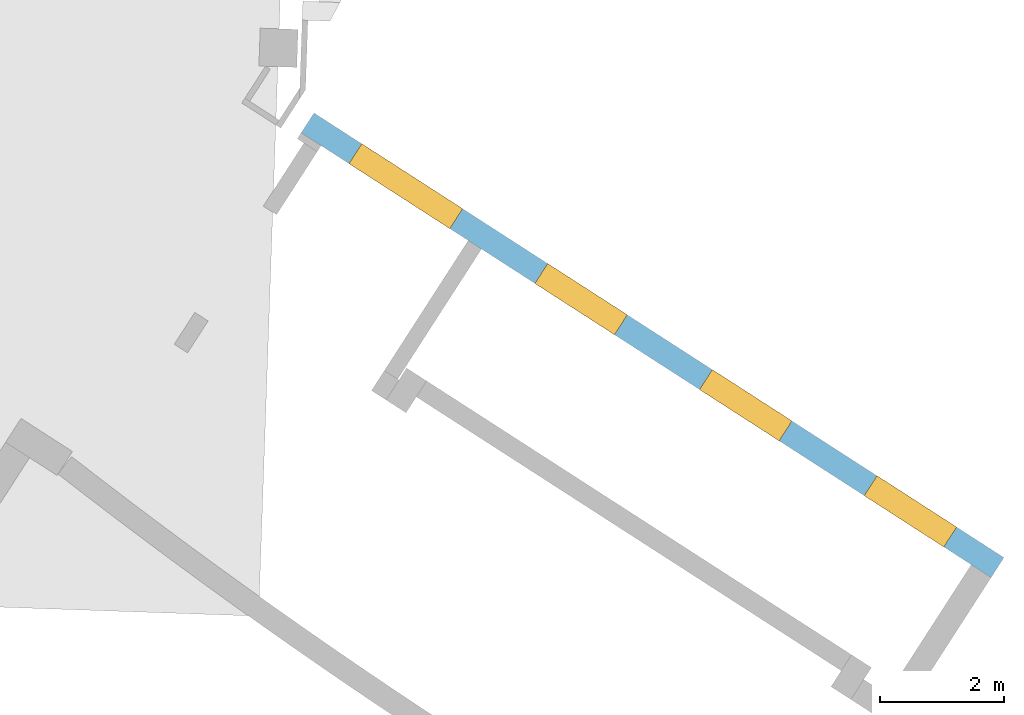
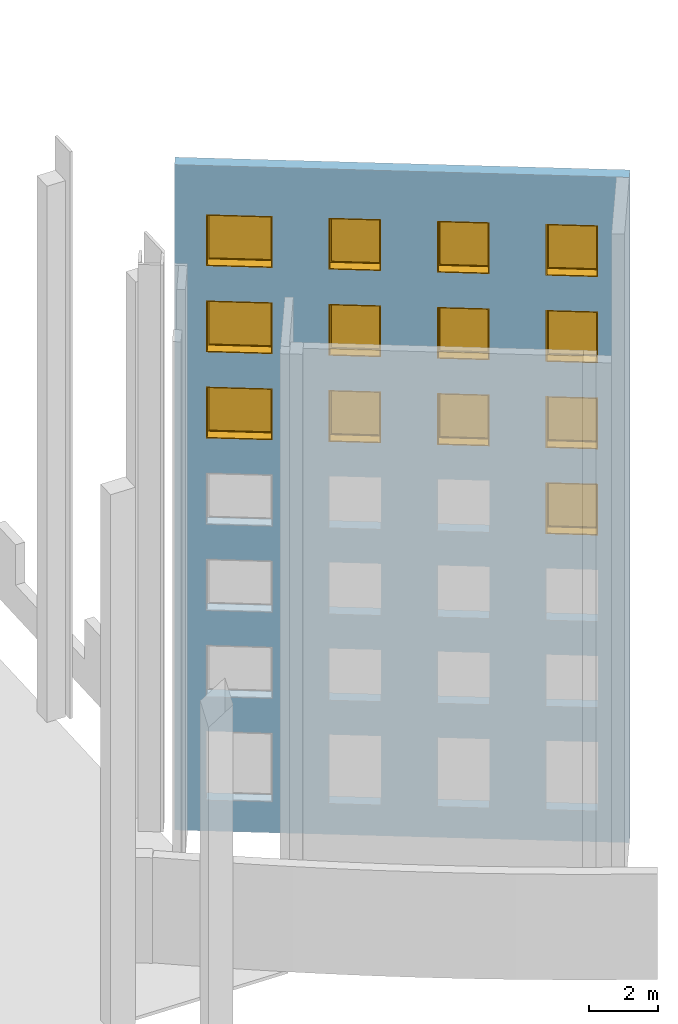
"""IFC2X3 building model written with IfcOpenShell, lengths in feet."""

from ifc_helpers import new_model, entity, si_unit, converted_unit, derived_unit, direction, frame, frame_2d, origin, place, context, subcontext, project, spatial, polyline, rectangle, outline, extrude, source, transform, mapped, material, material_list, layer, layer_set, layer_usage, type_object, type_shapes, element, fill, save


model = new_model("IFC2X3")

# Units and contexts
model_context = context("Model", 3, precision=0.0001, world=origin(), true_north=direction((0.999390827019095, 0.0348994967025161)))
body_context = subcontext(model_context, "Body", "Model", "MODEL_VIEW")
ifc_project = project(units=[converted_unit("LENGTHUNIT", "FOOT", entity("IfcRatioMeasure", 0.3048), si_unit("LENGTHUNIT", "METRE"), dimensions=[1, 0, 0, 0, 0, 0, 0]), converted_unit("AREAUNIT", "SQUARE FOOT", entity("IfcRatioMeasure", 0.09290304), si_unit("AREAUNIT", "SQUARE_METRE"), dimensions=[2, 0, 0, 0, 0, 0, 0]), converted_unit("VOLUMEUNIT", "CUBIC FOOT", entity("IfcRatioMeasure", 0.028316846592), si_unit("VOLUMEUNIT", "CUBIC_METRE"), dimensions=[3, 0, 0, 0, 0, 0, 0]), converted_unit("PLANEANGLEUNIT", "DEGREE", entity("IfcRatioMeasure", 0.0174532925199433), si_unit("PLANEANGLEUNIT", "RADIAN"), dimensions=[0, 0, 0, 0, 0, 0, 0]), si_unit("MASSUNIT", "GRAM", prefix="KILO"), si_unit("TIMEUNIT", "SECOND"), si_unit("FREQUENCYUNIT", "HERTZ"), si_unit("THERMODYNAMICTEMPERATUREUNIT", "DEGREE_CELSIUS"), derived_unit("THERMALTRANSMITTANCEUNIT", [(si_unit("MASSUNIT", "GRAM", prefix="KILO"), 1), (si_unit("THERMODYNAMICTEMPERATUREUNIT", "KELVIN"), -1), (si_unit("TIMEUNIT", "SECOND"), -3)]), derived_unit("VOLUMETRICFLOWRATEUNIT", [(si_unit("LENGTHUNIT", "METRE"), 3), (si_unit("TIMEUNIT", "SECOND"), -1)]), si_unit("ELECTRICCURRENTUNIT", "AMPERE"), si_unit("ELECTRICVOLTAGEUNIT", "VOLT"), si_unit("POWERUNIT", "WATT"), si_unit("FORCEUNIT", "NEWTON"), si_unit("ILLUMINANCEUNIT", "LUX"), si_unit("LUMINOUSFLUXUNIT", "LUMEN"), si_unit("LUMINOUSINTENSITYUNIT", "CANDELA"), derived_unit("USERDEFINED", [(si_unit("MASSUNIT", "GRAM", prefix="KILO"), -1), (si_unit("LENGTHUNIT", "METRE"), -2), (si_unit("TIMEUNIT", "SECOND"), 3), (si_unit("LUMINOUSFLUXUNIT", "LUMEN"), 1)]), derived_unit("LINEARVELOCITYUNIT", [(si_unit("LENGTHUNIT", "METRE"), 1), (si_unit("TIMEUNIT", "SECOND"), -1)]), si_unit("PRESSUREUNIT", "PASCAL"), derived_unit("USERDEFINED", [(si_unit("LENGTHUNIT", "METRE"), -2), (si_unit("MASSUNIT", "GRAM", prefix="KILO"), 1), (si_unit("TIMEUNIT", "SECOND"), -2)])], contexts=[model_context])

# Site, building, storey
site_placement = place(None, frame((892.518771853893, 322.38689265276, 0.00393700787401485), z_axis=(0.0, 0.0, 1.0), x_axis=(0.0348994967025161, 0.999390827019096, 0.0)))
site = spatial("IfcSite", under=ifc_project, at=site_placement, Name="Default", CompositionType="ELEMENT")
building_placement = place(site_placement, origin())
building = spatial("IfcBuilding", under=site, at=building_placement, CompositionType="ELEMENT")
storey_1_placement = place(building_placement, frame((0.0, 0.0, 544.75)))
storey_1 = spatial("IfcBuildingStorey", under=building, at=storey_1_placement, Name="Exist Garage - Ground Level", CompositionType="ELEMENT", Elevation=544.75)

# Wall, openings
ifc_material_1 = material(Name="Masonry - Brick")
ifc_layer_1 = layer(ifc_material_1, 0.302083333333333)
ifc_material_2 = material(Name="Misc. Air Layers - Air Space")
ifc_layer_2 = layer(ifc_material_2, 0.114583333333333)
ifc_material_3 = material(Name="Concrete - Cast-in-Place Concrete_hatch surface")
ifc_layer_3 = layer(ifc_material_3, 0.833333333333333)
ifc_layer_set = layer_set([ifc_layer_1, ifc_layer_2, ifc_layer_3], Name="Basic Wall:(existing)Exterior - Brick on Conc - 1'-3\"")
ifc_layer_usage = layer_usage(ifc_layer_set, "AXIS2", "NEGATIVE", 0.625)
wall_type = type_object("IfcWallType", Name="Basic Wall:(existing)Exterior - Brick on Conc - 1'-3\"", PredefinedType="STANDARD", material=ifc_layer_set)
wall_placement = place(storey_1_placement, frame((-143.978651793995, 235.094064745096, 0.0), z_axis=(0.0, 0.0, 1.0), x_axis=(-0.512021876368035, -0.858972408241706, 0.0)))
wall = element("IfcWallStandardCase", 1, at=wall_placement, inside=storey_1, type_object=wall_type, material=ifc_layer_usage, Name="Basic Wall:(existing)Exterior - Brick on Conc - 1'-3\"", ObjectType="Basic Wall:(existing)Exterior - Brick on Conc - 1'-3\"", context=body_context, shape_type="SweptSolid", body=[
    extrude(rectangle(XDim=43.3020833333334, YDim=1.25, at=frame_2d((21.6510416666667, -9.43689570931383e-16), x_axis=(-1.0, 0.0))), origin(), (0.0, 0.0, 1.0), 77.25),
])
opening_1_placement = place(wall_placement, frame((3.0, -0.625, 3.58333333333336)))
element("IfcOpeningElement", 2, at=opening_1_placement, cuts=wall, Name="Fixed:6'4\" x 8'0\":1", ObjectType="Opening", context=body_context, shape_type="SweptSolid", body=[
    extrude(rectangle(XDim=8.00000000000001, YDim=6.33333333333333, at=frame_2d((4.00000000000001, 3.16666666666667), x_axis=(-1.0, 0.0))), frame((0.0, 0.0, 0.0), z_axis=(0.0, 1.0, 0.0), x_axis=(0.0, 0.0, 1.0)), (0.0, 0.0, 1.0), 1.25),
])
opening_2_placement = place(wall_placement, frame((14.6666666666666, -0.625000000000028, 3.58333333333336)))
element("IfcOpeningElement", 3, at=opening_2_placement, cuts=wall, Name="Fixed:5'0\" x 8'0\":1", ObjectType="Opening", context=body_context, shape_type="SweptSolid", body=[
    extrude(rectangle(XDim=8.00000000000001, YDim=5.0, at=frame_2d((4.00000000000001, 2.5), x_axis=(-1.0, 0.0))), frame((0.0, 0.0, 0.0), z_axis=(0.0, 1.0, 0.0), x_axis=(0.0, 0.0, 1.0)), (0.0, 0.0, 1.0), 1.25),
])
opening_3_placement = place(wall_placement, frame((25.0, -0.625000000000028, 3.58333333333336)))
element("IfcOpeningElement", 4, at=opening_3_placement, cuts=wall, Name="Fixed:5'0\" x 8'0\":1", ObjectType="Opening", context=body_context, shape_type="SweptSolid", body=[
    extrude(rectangle(XDim=8.00000000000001, YDim=5.0, at=frame_2d((4.00000000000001, 2.5), x_axis=(-1.0, 0.0))), frame((0.0, 0.0, 0.0), z_axis=(0.0, 1.0, 0.0), x_axis=(0.0, 0.0, 1.0)), (0.0, 0.0, 1.0), 1.25),
])
opening_4_placement = place(wall_placement, frame((35.3333333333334, -0.625000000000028, 3.58333333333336)))
element("IfcOpeningElement", 5, at=opening_4_placement, cuts=wall, Name="Fixed:5'0\" x 8'0\":1", ObjectType="Opening", context=body_context, shape_type="SweptSolid", body=[
    extrude(rectangle(XDim=8.00000000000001, YDim=5.0, at=frame_2d((4.00000000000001, 2.5), x_axis=(-1.0, 0.0))), frame((0.0, 0.0, 0.0), z_axis=(0.0, 1.0, 0.0), x_axis=(0.0, 0.0, 1.0)), (0.0, 0.0, 1.0), 1.25),
])
opening_5_placement = place(wall_placement, frame((3.0, -0.625, 15.5833333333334)))
element("IfcOpeningElement", 6, at=opening_5_placement, cuts=wall, Name="Fixed:6'4\" x 6'0\":1", ObjectType="Opening", context=body_context, shape_type="SweptSolid", body=[
    extrude(rectangle(XDim=6.0, YDim=6.33333333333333, at=frame_2d((3.0, 3.16666666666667), x_axis=(-1.0, 0.0))), frame((0.0, 0.0, 0.0), z_axis=(0.0, 1.0, 0.0), x_axis=(0.0, 0.0, 1.0)), (0.0, 0.0, 1.0), 1.25),
])
opening_6_placement = place(wall_placement, frame((14.6666666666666, -0.625000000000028, 15.5833333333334)))
element("IfcOpeningElement", 7, at=opening_6_placement, cuts=wall, Name="Fixed:5'0\" x 6'0\":1", ObjectType="Opening", context=body_context, shape_type="SweptSolid", body=[
    extrude(rectangle(XDim=6.0, YDim=5.0, at=frame_2d((3.0, 2.5), x_axis=(-1.0, 0.0))), frame((0.0, 0.0, 0.0), z_axis=(0.0, 1.0, 0.0), x_axis=(0.0, 0.0, 1.0)), (0.0, 0.0, 1.0), 1.25),
])
opening_7_placement = place(wall_placement, frame((25.0, -0.625000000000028, 15.5833333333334)))
element("IfcOpeningElement", 8, at=opening_7_placement, cuts=wall, Name="Fixed:5'0\" x 6'0\":1", ObjectType="Opening", context=body_context, shape_type="SweptSolid", body=[
    extrude(rectangle(XDim=6.0, YDim=5.0, at=frame_2d((3.0, 2.5), x_axis=(-1.0, 0.0))), frame((0.0, 0.0, 0.0), z_axis=(0.0, 1.0, 0.0), x_axis=(0.0, 0.0, 1.0)), (0.0, 0.0, 1.0), 1.25),
])
opening_8_placement = place(wall_placement, frame((35.3333333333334, -0.625000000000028, 15.5833333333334)))
element("IfcOpeningElement", 9, at=opening_8_placement, cuts=wall, Name="Fixed:5'0\" x 6'0\":1", ObjectType="Opening", context=body_context, shape_type="SweptSolid", body=[
    extrude(rectangle(XDim=6.0, YDim=5.0, at=frame_2d((3.0, 2.5), x_axis=(-1.0, 0.0))), frame((0.0, 0.0, 0.0), z_axis=(0.0, 1.0, 0.0), x_axis=(0.0, 0.0, 1.0)), (0.0, 0.0, 1.0), 1.25),
])
opening_9_placement = place(wall_placement, frame((3.0, -0.625, 25.5833333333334)))
element("IfcOpeningElement", 10, at=opening_9_placement, cuts=wall, Name="Fixed:6'4\" x 6'0\":1", ObjectType="Opening", context=body_context, shape_type="SweptSolid", body=[
    extrude(rectangle(XDim=6.0, YDim=6.33333333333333, at=frame_2d((3.0, 3.16666666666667), x_axis=(-1.0, 0.0))), frame((0.0, 0.0, 0.0), z_axis=(0.0, 1.0, 0.0), x_axis=(0.0, 0.0, 1.0)), (0.0, 0.0, 1.0), 1.25),
])
opening_10_placement = place(wall_placement, frame((14.6666666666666, -0.625000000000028, 25.5833333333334)))
element("IfcOpeningElement", 11, at=opening_10_placement, cuts=wall, Name="Fixed:5'0\" x 6'0\":1", ObjectType="Opening", context=body_context, shape_type="SweptSolid", body=[
    extrude(rectangle(XDim=6.0, YDim=5.0, at=frame_2d((3.0, 2.5), x_axis=(-1.0, 0.0))), frame((0.0, 0.0, 0.0), z_axis=(0.0, 1.0, 0.0), x_axis=(0.0, 0.0, 1.0)), (0.0, 0.0, 1.0), 1.25),
])
opening_11_placement = place(wall_placement, frame((25.0, -0.625000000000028, 25.5833333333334)))
element("IfcOpeningElement", 12, at=opening_11_placement, cuts=wall, Name="Fixed:5'0\" x 6'0\":1", ObjectType="Opening", context=body_context, shape_type="SweptSolid", body=[
    extrude(rectangle(XDim=6.0, YDim=5.0, at=frame_2d((3.0, 2.5), x_axis=(-1.0, 0.0))), frame((0.0, 0.0, 0.0), z_axis=(0.0, 1.0, 0.0), x_axis=(0.0, 0.0, 1.0)), (0.0, 0.0, 1.0), 1.25),
])
opening_12_placement = place(wall_placement, frame((35.3333333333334, -0.625000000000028, 25.5833333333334)))
element("IfcOpeningElement", 13, at=opening_12_placement, cuts=wall, Name="Fixed:5'0\" x 6'0\":1", ObjectType="Opening", context=body_context, shape_type="SweptSolid", body=[
    extrude(rectangle(XDim=6.0, YDim=5.0, at=frame_2d((3.0, 2.5), x_axis=(-1.0, 0.0))), frame((0.0, 0.0, 0.0), z_axis=(0.0, 1.0, 0.0), x_axis=(0.0, 0.0, 1.0)), (0.0, 0.0, 1.0), 1.25),
])
opening_13_placement = place(wall_placement, frame((3.0, -0.625, 35.5833333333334)))
element("IfcOpeningElement", 14, at=opening_13_placement, cuts=wall, Name="Fixed:6'4\" x 6'0\":1", ObjectType="Opening", context=body_context, shape_type="SweptSolid", body=[
    extrude(rectangle(XDim=6.0, YDim=6.33333333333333, at=frame_2d((3.0, 3.16666666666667), x_axis=(-1.0, 0.0))), frame((0.0, 0.0, 0.0), z_axis=(0.0, 1.0, 0.0), x_axis=(0.0, 0.0, 1.0)), (0.0, 0.0, 1.0), 1.25),
])
opening_14_placement = place(wall_placement, frame((14.6666666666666, -0.625000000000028, 35.5833333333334)))
element("IfcOpeningElement", 15, at=opening_14_placement, cuts=wall, Name="Fixed:5'0\" x 6'0\":1", ObjectType="Opening", context=body_context, shape_type="SweptSolid", body=[
    extrude(rectangle(XDim=6.0, YDim=5.0, at=frame_2d((3.0, 2.5), x_axis=(-1.0, 0.0))), frame((0.0, 0.0, 0.0), z_axis=(0.0, 1.0, 0.0), x_axis=(0.0, 0.0, 1.0)), (0.0, 0.0, 1.0), 1.25),
])
opening_15_placement = place(wall_placement, frame((25.0, -0.625000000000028, 35.5833333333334)))
element("IfcOpeningElement", 16, at=opening_15_placement, cuts=wall, Name="Fixed:5'0\" x 6'0\":1", ObjectType="Opening", context=body_context, shape_type="SweptSolid", body=[
    extrude(rectangle(XDim=6.0, YDim=5.0, at=frame_2d((3.0, 2.5), x_axis=(-1.0, 0.0))), frame((0.0, 0.0, 0.0), z_axis=(0.0, 1.0, 0.0), x_axis=(0.0, 0.0, 1.0)), (0.0, 0.0, 1.0), 1.25),
])
opening_16_placement = place(wall_placement, frame((35.3333333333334, -0.625000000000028, 35.5833333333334)))
opening_16 = element("IfcOpeningElement", 17, at=opening_16_placement, cuts=wall, Name="Fixed:5'0\" x 6'0\":1", ObjectType="Opening", context=body_context, shape_type="SweptSolid", body=[
    extrude(rectangle(XDim=6.0, YDim=5.0, at=frame_2d((3.0, 2.5), x_axis=(-1.0, 0.0))), frame((0.0, 0.0, 0.0), z_axis=(0.0, 1.0, 0.0), x_axis=(0.0, 0.0, 1.0)), (0.0, 0.0, 1.0), 1.25),
])
opening_17_placement = place(wall_placement, frame((3.0, -0.625, 45.5833333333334)))
opening_17 = element("IfcOpeningElement", 18, at=opening_17_placement, cuts=wall, Name="Fixed:6'4\" x 6'0\":1", ObjectType="Opening", context=body_context, shape_type="SweptSolid", body=[
    extrude(rectangle(XDim=6.0, YDim=6.33333333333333, at=frame_2d((3.0, 3.16666666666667), x_axis=(-1.0, 0.0))), frame((0.0, 0.0, 0.0), z_axis=(0.0, 1.0, 0.0), x_axis=(0.0, 0.0, 1.0)), (0.0, 0.0, 1.0), 1.25),
])
opening_18_placement = place(wall_placement, frame((14.6666666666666, -0.625000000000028, 45.5833333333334)))
opening_18 = element("IfcOpeningElement", 19, at=opening_18_placement, cuts=wall, Name="Fixed:5'0\" x 6'0\":1", ObjectType="Opening", context=body_context, shape_type="SweptSolid", body=[
    extrude(rectangle(XDim=6.0, YDim=5.0, at=frame_2d((3.0, 2.5), x_axis=(-1.0, 0.0))), frame((0.0, 0.0, 0.0), z_axis=(0.0, 1.0, 0.0), x_axis=(0.0, 0.0, 1.0)), (0.0, 0.0, 1.0), 1.25),
])
opening_19_placement = place(wall_placement, frame((25.0, -0.625000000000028, 45.5833333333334)))
opening_19 = element("IfcOpeningElement", 20, at=opening_19_placement, cuts=wall, Name="Fixed:5'0\" x 6'0\":1", ObjectType="Opening", context=body_context, shape_type="SweptSolid", body=[
    extrude(rectangle(XDim=6.0, YDim=5.0, at=frame_2d((3.0, 2.5), x_axis=(-1.0, 0.0))), frame((0.0, 0.0, 0.0), z_axis=(0.0, 1.0, 0.0), x_axis=(0.0, 0.0, 1.0)), (0.0, 0.0, 1.0), 1.25),
])
opening_20_placement = place(wall_placement, frame((35.3333333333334, -0.625000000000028, 45.5833333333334)))
opening_20 = element("IfcOpeningElement", 21, at=opening_20_placement, cuts=wall, Name="Fixed:5'0\" x 6'0\":1", ObjectType="Opening", context=body_context, shape_type="SweptSolid", body=[
    extrude(rectangle(XDim=6.0, YDim=5.0, at=frame_2d((3.0, 2.5), x_axis=(-1.0, 0.0))), frame((0.0, 0.0, 0.0), z_axis=(0.0, 1.0, 0.0), x_axis=(0.0, 0.0, 1.0)), (0.0, 0.0, 1.0), 1.25),
])
opening_21_placement = place(wall_placement, frame((3.0, -0.625, 55.5833333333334)))
opening_21 = element("IfcOpeningElement", 22, at=opening_21_placement, cuts=wall, Name="Fixed:6'4\" x 6'0\":1", ObjectType="Opening", context=body_context, shape_type="SweptSolid", body=[
    extrude(rectangle(XDim=6.0, YDim=6.33333333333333, at=frame_2d((3.0, 3.16666666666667), x_axis=(-1.0, 0.0))), frame((0.0, 0.0, 0.0), z_axis=(0.0, 1.0, 0.0), x_axis=(0.0, 0.0, 1.0)), (0.0, 0.0, 1.0), 1.25),
])
opening_22_placement = place(wall_placement, frame((14.6666666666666, -0.625000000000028, 55.5833333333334)))
opening_22 = element("IfcOpeningElement", 23, at=opening_22_placement, cuts=wall, Name="Fixed:5'0\" x 6'0\":1", ObjectType="Opening", context=body_context, shape_type="SweptSolid", body=[
    extrude(rectangle(XDim=6.0, YDim=5.0, at=frame_2d((3.0, 2.5), x_axis=(-1.0, 0.0))), frame((0.0, 0.0, 0.0), z_axis=(0.0, 1.0, 0.0), x_axis=(0.0, 0.0, 1.0)), (0.0, 0.0, 1.0), 1.25),
])
opening_23_placement = place(wall_placement, frame((25.0, -0.625000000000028, 55.5833333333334)))
opening_23 = element("IfcOpeningElement", 24, at=opening_23_placement, cuts=wall, Name="Fixed:5'0\" x 6'0\":1", ObjectType="Opening", context=body_context, shape_type="SweptSolid", body=[
    extrude(rectangle(XDim=6.0, YDim=5.0, at=frame_2d((3.0, 2.5), x_axis=(-1.0, 0.0))), frame((0.0, 0.0, 0.0), z_axis=(0.0, 1.0, 0.0), x_axis=(0.0, 0.0, 1.0)), (0.0, 0.0, 1.0), 1.25),
])
opening_24_placement = place(wall_placement, frame((35.3333333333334, -0.625000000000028, 55.5833333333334)))
opening_24 = element("IfcOpeningElement", 25, at=opening_24_placement, cuts=wall, Name="Fixed:5'0\" x 6'0\":1", ObjectType="Opening", context=body_context, shape_type="SweptSolid", body=[
    extrude(rectangle(XDim=6.0, YDim=5.0, at=frame_2d((3.0, 2.5), x_axis=(-1.0, 0.0))), frame((0.0, 0.0, 0.0), z_axis=(0.0, 1.0, 0.0), x_axis=(0.0, 0.0, 1.0)), (0.0, 0.0, 1.0), 1.25),
])
opening_25_placement = place(wall_placement, frame((3.0, -0.625, 65.5833333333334)))
opening_25 = element("IfcOpeningElement", 26, at=opening_25_placement, cuts=wall, Name="Fixed:6'4\" x 6'0\":1", ObjectType="Opening", context=body_context, shape_type="SweptSolid", body=[
    extrude(rectangle(XDim=6.0, YDim=6.33333333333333, at=frame_2d((3.0, 3.16666666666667), x_axis=(-1.0, 0.0))), frame((0.0, 0.0, 0.0), z_axis=(0.0, 1.0, 0.0), x_axis=(0.0, 0.0, 1.0)), (0.0, 0.0, 1.0), 1.25),
])
opening_26_placement = place(wall_placement, frame((14.6666666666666, -0.625000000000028, 65.5833333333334)))
opening_26 = element("IfcOpeningElement", 27, at=opening_26_placement, cuts=wall, Name="Fixed:5'0\" x 6'0\":1", ObjectType="Opening", context=body_context, shape_type="SweptSolid", body=[
    extrude(rectangle(XDim=6.0, YDim=5.0, at=frame_2d((3.0, 2.5), x_axis=(-1.0, 0.0))), frame((0.0, 0.0, 0.0), z_axis=(0.0, 1.0, 0.0), x_axis=(0.0, 0.0, 1.0)), (0.0, 0.0, 1.0), 1.25),
])
opening_27_placement = place(wall_placement, frame((25.0, -0.625000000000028, 65.5833333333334)))
opening_27 = element("IfcOpeningElement", 28, at=opening_27_placement, cuts=wall, Name="Fixed:5'0\" x 6'0\":1", ObjectType="Opening", context=body_context, shape_type="SweptSolid", body=[
    extrude(rectangle(XDim=6.0, YDim=5.0, at=frame_2d((3.0, 2.5), x_axis=(-1.0, 0.0))), frame((0.0, 0.0, 0.0), z_axis=(0.0, 1.0, 0.0), x_axis=(0.0, 0.0, 1.0)), (0.0, 0.0, 1.0), 1.25),
])
opening_28_placement = place(wall_placement, frame((35.3333333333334, -0.625000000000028, 65.5833333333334)))
opening_28 = element("IfcOpeningElement", 29, at=opening_28_placement, cuts=wall, Name="Fixed:5'0\" x 6'0\":1", ObjectType="Opening", context=body_context, shape_type="SweptSolid", body=[
    extrude(rectangle(XDim=6.0, YDim=5.0, at=frame_2d((3.0, 2.5), x_axis=(-1.0, 0.0))), frame((0.0, 0.0, 0.0), z_axis=(0.0, 1.0, 0.0), x_axis=(0.0, 0.0, 1.0)), (0.0, 0.0, 1.0), 1.25),
])

# Storey
storey_2_placement = place(building_placement, frame((0.0, 0.0, 587.0)))
storey_2 = spatial("IfcBuildingStorey", under=building, at=storey_2_placement, Name="Existing Garage - 4th Level", CompositionType="ELEMENT", Elevation=587.0)

# Window
ifc_material_4 = material(Name="Glass")
ifc_material_5 = material(Name="Sash")
ifc_material_list_1 = material_list([ifc_material_4, ifc_material_5])
ifc_material_list_2 = material_list([ifc_material_4, ifc_material_5])
window_style_1 = type_object("IfcWindowStyle", Name="6'4\" x 6'0\"", ConstructionType="NOTDEFINED", OperationType="NOTDEFINED", ParameterTakesPrecedence=False, Sizeable=False, material=ifc_material_list_2)
shared_shape_1 = source(origin(), body_context, "Body", "SweptSolid", [
    extrude(rectangle(XDim=0.0416666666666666, YDim=5.91666666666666, at=frame_2d((5.55111512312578e-17, 0.0), x_axis=(1.0, 0.0))), frame((3.16666666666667, 1.11458333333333, 0.208333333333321), z_axis=(0.0, 0.0, 1.0), x_axis=(0.0, 1.0, 0.0)), (0.0, 0.0, 1.0), 5.58333333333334),
    extrude(outline(polyline([(-3.10416666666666, -2.93750000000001), (3.10416666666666, -2.93750000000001), (3.10416666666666, 2.93750000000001), (-3.10416666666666, 2.93750000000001), (-3.10416666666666, -2.93750000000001)]), holes=[polyline([(-2.95833333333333, -2.79166666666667), (-2.95833333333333, 2.79166666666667), (2.95833333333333, 2.79166666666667), (2.95833333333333, -2.79166666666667), (-2.95833333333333, -2.79166666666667)])]), frame((3.16666666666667, 1.04166666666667, 3.0), z_axis=(0.0, 1.0, 0.0), x_axis=(1.0, 0.0, 0.0)), (0.0, 0.0, 1.0), 0.145833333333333),
    extrude(outline(polyline([(-3.16666666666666, -3.0), (3.16666666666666, -3.0), (3.16666666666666, 3.0), (-3.16666666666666, 3.0), (-3.16666666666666, -3.0)]), holes=[polyline([(-3.0625, -2.89583333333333), (-3.0625, 2.89583333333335), (3.0625, 2.89583333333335), (3.0625, -2.89583333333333), (-3.0625, -2.89583333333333)])]), frame((3.16666666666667, 0.0, 3.0), z_axis=(0.0, 1.0, 0.0), x_axis=(1.0, 0.0, 0.0)), (0.0, 0.0, 1.0), 1.04166666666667),
    extrude(outline(polyline([(-3.0, -3.16666666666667), (3.0, -3.16666666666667), (3.0, 3.16666666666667), (-3.0, 3.16666666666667), (-3.0, -3.16666666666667)]), holes=[polyline([(-2.9375, -3.10416666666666), (-2.9375, 3.10416666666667), (2.93750000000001, 3.10416666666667), (2.93750000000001, -3.10416666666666), (-2.9375, -3.10416666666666)])]), frame((3.16666666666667, 1.04166666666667, 3.0), z_axis=(0.0, 1.0, 0.0), x_axis=(0.0, 0.0, -1.0)), (0.0, 0.0, 1.0), 0.208333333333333),
])
type_shapes(window_style_1, [shared_shape_1])
window_1_placement = place(opening_17_placement, origin())
window_1 = element("IfcWindow", 30, at=window_1_placement, inside=storey_2, type_object=window_style_1, material=ifc_material_list_1, Name="Fixed:6'4\" x 6'0\"", ObjectType="6'4\" x 6'0\"", OverallHeight=6.0, OverallWidth=6.33333333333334, context=body_context, shape_type="MappedRepresentation", body=[
    mapped(shared_shape_1, transform((0.0, 0.0, 0.0), scale=1.0)),
])

fill(opening_17, window_1)

# Storey
storey_3_placement = place(building_placement, frame((0.0, 0.0, 597.0)))
storey_3 = spatial("IfcBuildingStorey", under=building, at=storey_3_placement, Name="Existing Garage - 5th Level", CompositionType="ELEMENT", Elevation=597.0)

# Window
ifc_material_list_3 = material_list([ifc_material_4, ifc_material_5])
window_2_placement = place(opening_21_placement, origin())
window_2 = element("IfcWindow", 31, at=window_2_placement, inside=storey_3, type_object=window_style_1, material=ifc_material_list_3, Name="Fixed:6'4\" x 6'0\"", ObjectType="6'4\" x 6'0\"", OverallHeight=6.0, OverallWidth=6.33333333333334, context=body_context, shape_type="MappedRepresentation", body=[
    mapped(shared_shape_1, transform((0.0, 0.0, 0.0), scale=1.0)),
])

fill(opening_21, window_2)

# Storey
storey_4_placement = place(building_placement, frame((0.0, 0.0, 607.0)))
storey_4 = spatial("IfcBuildingStorey", under=building, at=storey_4_placement, Name="Existing Garage - Roof Level", CompositionType="ELEMENT", Elevation=607.0)

# Window
ifc_material_list_4 = material_list([ifc_material_4, ifc_material_5])
window_3_placement = place(opening_25_placement, origin())
window_3 = element("IfcWindow", 32, at=window_3_placement, inside=storey_4, type_object=window_style_1, material=ifc_material_list_4, Name="Fixed:6'4\" x 6'0\"", ObjectType="6'4\" x 6'0\"", OverallHeight=6.0, OverallWidth=6.33333333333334, context=body_context, shape_type="MappedRepresentation", body=[
    mapped(shared_shape_1, transform((0.0, 0.0, 0.0), scale=1.0)),
])

fill(opening_25, window_3)

# Storey
storey_5_placement = place(building_placement, frame((0.0, 0.0, 577.0)))
storey_5 = spatial("IfcBuildingStorey", under=building, at=storey_5_placement, Name="Existing Garage - 3rd Level", CompositionType="ELEMENT", Elevation=577.0)

# Window
ifc_material_list_5 = material_list([ifc_material_4, ifc_material_5])
ifc_material_list_6 = material_list([ifc_material_4, ifc_material_5])
window_style_2 = type_object("IfcWindowStyle", Name="5'0\" x 6'0\"", ConstructionType="NOTDEFINED", OperationType="NOTDEFINED", ParameterTakesPrecedence=False, Sizeable=False, material=ifc_material_list_6)
shared_shape_2 = source(origin(), body_context, "Body", "SweptSolid", [
    extrude(rectangle(XDim=0.0416666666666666, YDim=4.58333333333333, at=frame_2d((5.55111512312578e-17, 0.0), x_axis=(1.0, 0.0))), frame((2.5, 1.11458333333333, 0.208333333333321), z_axis=(0.0, 0.0, 1.0), x_axis=(0.0, 1.0, 0.0)), (0.0, 0.0, 1.0), 5.58333333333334),
    extrude(outline(polyline([(-2.4375, -2.93750000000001), (2.4375, -2.93750000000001), (2.4375, 2.93750000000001), (-2.4375, 2.93750000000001), (-2.4375, -2.93750000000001)]), holes=[polyline([(-2.29166666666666, -2.79166666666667), (-2.29166666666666, 2.79166666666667), (2.29166666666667, 2.79166666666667), (2.29166666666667, -2.79166666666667), (-2.29166666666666, -2.79166666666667)])]), frame((2.5, 1.04166666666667, 3.0), z_axis=(0.0, 1.0, 0.0), x_axis=(1.0, 0.0, 0.0)), (0.0, 0.0, 1.0), 0.145833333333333),
    extrude(outline(polyline([(-2.5, -3.0), (2.5, -3.0), (2.5, 3.0), (-2.5, 3.0), (-2.5, -3.0)]), holes=[polyline([(-2.39583333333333, -2.89583333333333), (-2.39583333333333, 2.89583333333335), (2.39583333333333, 2.89583333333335), (2.39583333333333, -2.89583333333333), (-2.39583333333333, -2.89583333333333)])]), frame((2.5, 0.0, 3.0), z_axis=(0.0, 1.0, 0.0), x_axis=(1.0, 0.0, 0.0)), (0.0, 0.0, 1.0), 1.04166666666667),
    extrude(outline(polyline([(-3.0, -2.5), (3.0, -2.5), (3.0, 2.5), (-3.0, 2.5), (-3.0, -2.5)]), holes=[polyline([(-2.9375, -2.4375), (-2.9375, 2.4375), (2.93750000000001, 2.4375), (2.93750000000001, -2.43749999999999), (-2.9375, -2.4375)])]), frame((2.5, 1.04166666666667, 3.0), z_axis=(0.0, 1.0, 0.0), x_axis=(0.0, 0.0, -1.0)), (0.0, 0.0, 1.0), 0.208333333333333),
])
type_shapes(window_style_2, [shared_shape_2])
window_4_placement = place(opening_16_placement, origin())
window_4 = element("IfcWindow", 33, at=window_4_placement, inside=storey_5, type_object=window_style_2, material=ifc_material_list_5, Name="Fixed:5'0\" x 6'0\"", ObjectType="5'0\" x 6'0\"", OverallHeight=6.0, OverallWidth=5.0, context=body_context, shape_type="MappedRepresentation", body=[
    mapped(shared_shape_2, transform((0.0, 0.0, 0.0), scale=1.0)),
])

fill(opening_16, window_4)

ifc_material_list_7 = material_list([ifc_material_4, ifc_material_5])
window_5_placement = place(opening_18_placement, origin())
window_5 = element("IfcWindow", 34, at=window_5_placement, inside=storey_2, type_object=window_style_2, material=ifc_material_list_7, Name="Fixed:5'0\" x 6'0\"", ObjectType="5'0\" x 6'0\"", OverallHeight=6.0, OverallWidth=5.0, context=body_context, shape_type="MappedRepresentation", body=[
    mapped(shared_shape_2, transform((0.0, 0.0, 0.0), scale=1.0)),
])

fill(opening_18, window_5)

ifc_material_list_8 = material_list([ifc_material_4, ifc_material_5])
window_6_placement = place(opening_19_placement, origin())
window_6 = element("IfcWindow", 35, at=window_6_placement, inside=storey_2, type_object=window_style_2, material=ifc_material_list_8, Name="Fixed:5'0\" x 6'0\"", ObjectType="5'0\" x 6'0\"", OverallHeight=6.0, OverallWidth=5.0, context=body_context, shape_type="MappedRepresentation", body=[
    mapped(shared_shape_2, transform((0.0, 0.0, 0.0), scale=1.0)),
])

fill(opening_19, window_6)

ifc_material_list_9 = material_list([ifc_material_4, ifc_material_5])
window_7_placement = place(opening_20_placement, origin())
window_7 = element("IfcWindow", 36, at=window_7_placement, inside=storey_2, type_object=window_style_2, material=ifc_material_list_9, Name="Fixed:5'0\" x 6'0\"", ObjectType="5'0\" x 6'0\"", OverallHeight=6.0, OverallWidth=5.0, context=body_context, shape_type="MappedRepresentation", body=[
    mapped(shared_shape_2, transform((0.0, 0.0, 0.0), scale=1.0)),
])

fill(opening_20, window_7)

ifc_material_list_10 = material_list([ifc_material_4, ifc_material_5])
window_8_placement = place(opening_22_placement, origin())
window_8 = element("IfcWindow", 37, at=window_8_placement, inside=storey_3, type_object=window_style_2, material=ifc_material_list_10, Name="Fixed:5'0\" x 6'0\"", ObjectType="5'0\" x 6'0\"", OverallHeight=6.0, OverallWidth=5.0, context=body_context, shape_type="MappedRepresentation", body=[
    mapped(shared_shape_2, transform((0.0, 0.0, 0.0), scale=1.0)),
])

fill(opening_22, window_8)

ifc_material_list_11 = material_list([ifc_material_4, ifc_material_5])
window_9_placement = place(opening_23_placement, origin())
window_9 = element("IfcWindow", 38, at=window_9_placement, inside=storey_3, type_object=window_style_2, material=ifc_material_list_11, Name="Fixed:5'0\" x 6'0\"", ObjectType="5'0\" x 6'0\"", OverallHeight=6.0, OverallWidth=5.0, context=body_context, shape_type="MappedRepresentation", body=[
    mapped(shared_shape_2, transform((0.0, 0.0, 0.0), scale=1.0)),
])

fill(opening_23, window_9)

ifc_material_list_12 = material_list([ifc_material_4, ifc_material_5])
window_10_placement = place(opening_24_placement, origin())
window_10 = element("IfcWindow", 39, at=window_10_placement, inside=storey_3, type_object=window_style_2, material=ifc_material_list_12, Name="Fixed:5'0\" x 6'0\"", ObjectType="5'0\" x 6'0\"", OverallHeight=6.0, OverallWidth=5.0, context=body_context, shape_type="MappedRepresentation", body=[
    mapped(shared_shape_2, transform((0.0, 0.0, 0.0), scale=1.0)),
])

fill(opening_24, window_10)

ifc_material_list_13 = material_list([ifc_material_4, ifc_material_5])
window_11_placement = place(opening_26_placement, origin())
window_11 = element("IfcWindow", 40, at=window_11_placement, inside=storey_4, type_object=window_style_2, material=ifc_material_list_13, Name="Fixed:5'0\" x 6'0\"", ObjectType="5'0\" x 6'0\"", OverallHeight=6.0, OverallWidth=5.0, context=body_context, shape_type="MappedRepresentation", body=[
    mapped(shared_shape_2, transform((0.0, 0.0, 0.0), scale=1.0)),
])

fill(opening_26, window_11)

ifc_material_list_14 = material_list([ifc_material_4, ifc_material_5])
window_12_placement = place(opening_27_placement, origin())
window_12 = element("IfcWindow", 41, at=window_12_placement, inside=storey_4, type_object=window_style_2, material=ifc_material_list_14, Name="Fixed:5'0\" x 6'0\"", ObjectType="5'0\" x 6'0\"", OverallHeight=6.0, OverallWidth=5.0, context=body_context, shape_type="MappedRepresentation", body=[
    mapped(shared_shape_2, transform((0.0, 0.0, 0.0), scale=1.0)),
])

fill(opening_27, window_12)

ifc_material_list_15 = material_list([ifc_material_4, ifc_material_5])
window_13_placement = place(opening_28_placement, origin())
window_13 = element("IfcWindow", 42, at=window_13_placement, inside=storey_4, type_object=window_style_2, material=ifc_material_list_15, Name="Fixed:5'0\" x 6'0\"", ObjectType="5'0\" x 6'0\"", OverallHeight=6.0, OverallWidth=5.0, context=body_context, shape_type="MappedRepresentation", body=[
    mapped(shared_shape_2, transform((0.0, 0.0, 0.0), scale=1.0)),
])

fill(opening_28, window_13)

save(model, "model.ifc")
